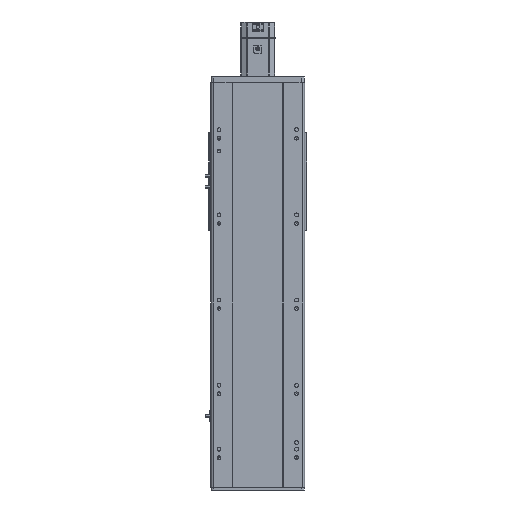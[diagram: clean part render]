
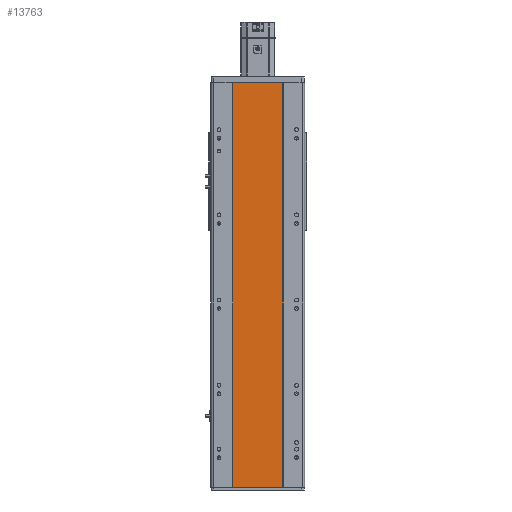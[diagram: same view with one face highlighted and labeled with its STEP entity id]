
A CAD part, front view. The second image highlights one B-rep face of the part: STEP entity #13763.
In plain terms, the highlighted planar face has unit normal (0, -1, 0).
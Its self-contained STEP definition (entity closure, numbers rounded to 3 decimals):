
#88 = DIRECTION ( 'NONE',  ( 0., 0., -1. ) ) ;
#396 = DIRECTION ( 'NONE',  ( 0., 1., 0. ) ) ;
#3539 = ORIENTED_EDGE ( 'NONE', *, *, #7208, .F. ) ;
#4226 = LINE ( 'NONE', #8659, #11512 ) ;
#5527 = CARTESIAN_POINT ( 'NONE',  ( 59., 1., 475.5 ) ) ;
#5786 = DIRECTION ( 'NONE',  ( 0., 0., -1. ) ) ;
#6428 = DIRECTION ( 'NONE',  ( -1., 0., 0. ) ) ;
#7208 = EDGE_CURVE ( 'NONE', #10245, #12793, #17593, .T. ) ;
#7757 = CARTESIAN_POINT ( 'NONE',  ( -59., 1., -475.5 ) ) ;
#7979 = FACE_OUTER_BOUND ( 'NONE', #10891, .T. ) ;
#8174 = ORIENTED_EDGE ( 'NONE', *, *, #17441, .T. ) ;
#8659 = CARTESIAN_POINT ( 'NONE',  ( -59., 1., 475.5 ) ) ;
#10245 = VERTEX_POINT ( 'NONE', #13634 ) ;
#10597 = VERTEX_POINT ( 'NONE', #7757 ) ;
#10891 = EDGE_LOOP ( 'NONE', ( #27197, #3539, #24507, #8174 ) ) ;
#11512 = VECTOR ( 'NONE', #88, 1000. ) ;
#11536 = LINE ( 'NONE', #29518, #20166 ) ;
#12339 = VECTOR ( 'NONE', #31807, 1000. ) ;
#12793 = VERTEX_POINT ( 'NONE', #14175 ) ;
#13634 = CARTESIAN_POINT ( 'NONE',  ( 59., 1., 475.5 ) ) ;
#13763 = ADVANCED_FACE ( 'NONE', ( #7979 ), #14416, .F. ) ;
#14175 = CARTESIAN_POINT ( 'NONE',  ( 59., 1., -475.5 ) ) ;
#14416 = PLANE ( 'NONE',  #34904 ) ;
#14537 = CARTESIAN_POINT ( 'NONE',  ( -59., 1., -475.5 ) ) ;
#17441 = EDGE_CURVE ( 'NONE', #30598, #10597, #4226, .T. ) ;
#17593 = LINE ( 'NONE', #5527, #27152 ) ;
#20166 = VECTOR ( 'NONE', #26741, 1000. ) ;
#24507 = ORIENTED_EDGE ( 'NONE', *, *, #31099, .F. ) ;
#26096 = CARTESIAN_POINT ( 'NONE',  ( -59., 1., 475.5 ) ) ;
#26741 = DIRECTION ( 'NONE',  ( 1., 0., 0. ) ) ;
#27152 = VECTOR ( 'NONE', #5786, 1000. ) ;
#27197 = ORIENTED_EDGE ( 'NONE', *, *, #32570, .T. ) ;
#27451 = CARTESIAN_POINT ( 'NONE',  ( -59., 1., 475.5 ) ) ;
#29518 = CARTESIAN_POINT ( 'NONE',  ( -59., 1., 475.5 ) ) ;
#29591 = LINE ( 'NONE', #14537, #12339 ) ;
#30598 = VERTEX_POINT ( 'NONE', #27451 ) ;
#31099 = EDGE_CURVE ( 'NONE', #30598, #10245, #11536, .T. ) ;
#31807 = DIRECTION ( 'NONE',  ( 1., 0., 0. ) ) ;
#32570 = EDGE_CURVE ( 'NONE', #10597, #12793, #29591, .T. ) ;
#34904 = AXIS2_PLACEMENT_3D ( 'NONE', #26096, #396, #6428 ) ;
